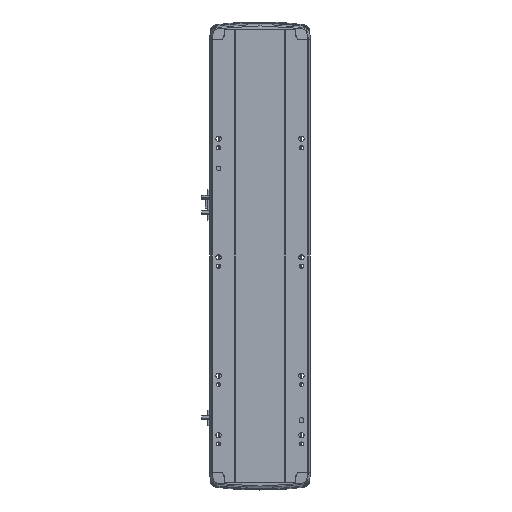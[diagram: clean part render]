
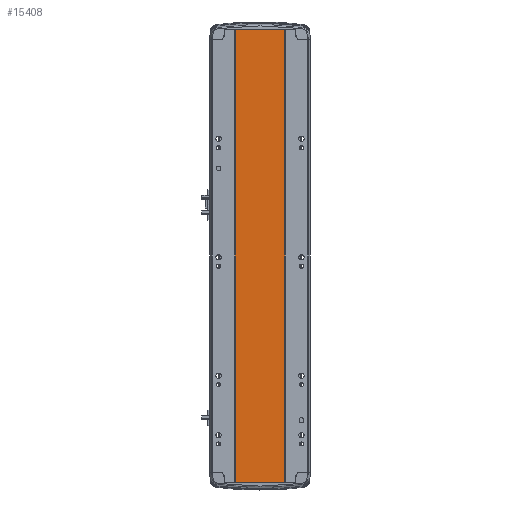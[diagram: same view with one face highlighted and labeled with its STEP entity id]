
A CAD part, front view. The second image highlights one B-rep face of the part: STEP entity #15408.
In plain terms, the highlighted planar face has unit normal (0, -1, 0).
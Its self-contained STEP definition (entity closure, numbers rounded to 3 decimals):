
#575 = EDGE_CURVE ( 'NONE', #4301, #17888, #22000, .T. ) ;
#2150 = ORIENTED_EDGE ( 'NONE', *, *, #4830, .T. ) ;
#2189 = ORIENTED_EDGE ( 'NONE', *, *, #11394, .F. ) ;
#2820 = CARTESIAN_POINT ( 'NONE',  ( -41.791, 1., 764.5 ) ) ;
#2919 = PLANE ( 'NONE',  #14181 ) ;
#4301 = VERTEX_POINT ( 'NONE', #16726 ) ;
#4344 = CARTESIAN_POINT ( 'NONE',  ( 41.793, 0.998, 764.5 ) ) ;
#4830 = EDGE_CURVE ( 'NONE', #4989, #9540, #28515, .T. ) ;
#4989 = VERTEX_POINT ( 'NONE', #30112 ) ;
#5896 = EDGE_LOOP ( 'NONE', ( #2150, #2189, #10706, #22667 ) ) ;
#6366 = VECTOR ( 'NONE', #23415, 1000. ) ;
#7186 = VECTOR ( 'NONE', #7199, 1000. ) ;
#7199 = DIRECTION ( 'NONE',  ( 0., 0., -1. ) ) ;
#9155 = CARTESIAN_POINT ( 'NONE',  ( 0., 0.999, 764.5 ) ) ;
#9540 = VERTEX_POINT ( 'NONE', #10416 ) ;
#9928 = VECTOR ( 'NONE', #21145, 1000. ) ;
#10416 = CARTESIAN_POINT ( 'NONE',  ( 41.793, 0.998, 0. ) ) ;
#10706 = ORIENTED_EDGE ( 'NONE', *, *, #575, .F. ) ;
#10933 = VECTOR ( 'NONE', #36910, 1000. ) ;
#11394 = EDGE_CURVE ( 'NONE', #17888, #9540, #33681, .T. ) ;
#14181 = AXIS2_PLACEMENT_3D ( 'NONE', #9155, #18421, #21501 ) ;
#15408 = ADVANCED_FACE ( 'NONE', ( #33461 ), #2919, .F. ) ;
#16726 = CARTESIAN_POINT ( 'NONE',  ( -41.791, 1., 764.5 ) ) ;
#17888 = VERTEX_POINT ( 'NONE', #4344 ) ;
#18421 = DIRECTION ( 'NONE',  ( 0., 1., 0. ) ) ;
#19205 = CARTESIAN_POINT ( 'NONE',  ( 41.793, 0.998, 764.5 ) ) ;
#21145 = DIRECTION ( 'NONE',  ( 0., 0., -1. ) ) ;
#21501 = DIRECTION ( 'NONE',  ( -1., 0., 0. ) ) ;
#22000 = LINE ( 'NONE', #33423, #10933 ) ;
#22667 = ORIENTED_EDGE ( 'NONE', *, *, #24147, .T. ) ;
#23415 = DIRECTION ( 'NONE',  ( 1., 0., 0. ) ) ;
#24147 = EDGE_CURVE ( 'NONE', #4301, #4989, #26247, .T. ) ;
#26247 = LINE ( 'NONE', #2820, #9928 ) ;
#28515 = LINE ( 'NONE', #32409, #6366 ) ;
#30112 = CARTESIAN_POINT ( 'NONE',  ( -41.791, 1., 0. ) ) ;
#32409 = CARTESIAN_POINT ( 'NONE',  ( 0., 0.999, 0. ) ) ;
#33423 = CARTESIAN_POINT ( 'NONE',  ( 0., 0.999, 764.5 ) ) ;
#33461 = FACE_OUTER_BOUND ( 'NONE', #5896, .T. ) ;
#33681 = LINE ( 'NONE', #19205, #7186 ) ;
#36910 = DIRECTION ( 'NONE',  ( 1., 0., 0. ) ) ;
